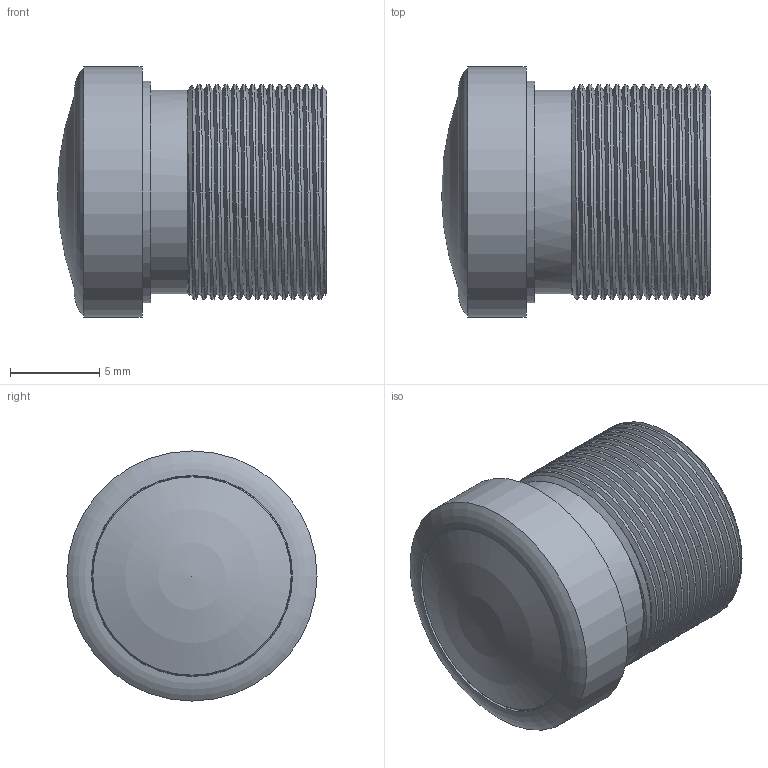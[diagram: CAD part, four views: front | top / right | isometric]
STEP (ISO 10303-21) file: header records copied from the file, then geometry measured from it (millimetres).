
FILE_DESCRIPTION(/* description */ (''),/* implementation_level */ '2;1');
FILE_NAME(/* name */ 'C:\Users\MaxHenkart\Desktop\Commonlands\Product\CIL334\CIL334-F2.2-M12C660.stp',/* time_stamp */ '2023-01-24T09:13:20-08:00',/* author */ ('MaxHenkart'),/* organization */ (''),/* preprocessor_version */ 'ST-DEVELOPER v19',/* originating_system */ 'Autodesk Inventor 2023',/* authorisation */ '');
FILE_SCHEMA (('AUTOMOTIVE_DESIGN { 1 0 10303 214 3 1 1 }'));
Length unit declared in the file: millimetre
Products named in the file (1): CIL334 CAD
Bounding box: 15.06 x 14 x 14 mm (x, y, z)
Volume: 1667.4 mm3; surface area: 1273.4 mm2
Topology: 1 solids, 2 shells, 72 faces, 167 edges, 105 vertices
Faces by surface type: cylinder 27, plane 22, cone 10, bspline 10, sphere 2, torus 1
Full cylindrical faces by diameter (mm): 6.3 x1, 6.54 x1, 6.8 x1, 9.2 x1, 10.8 x1, 11.2 x1, 11.25 x1, 11.4 x1, 12 x14, 12.4 x1, 13.5 x1, 14 x1
Entity records: 12969 total; most frequent: CARTESIAN_POINT 11385, ORIENTED_EDGE 330, DIRECTION 290, EDGE_CURVE 165, AXIS2_PLACEMENT_3D 114, VERTEX_POINT 105, EDGE_LOOP 80, FACE_OUTER_BOUND 72
